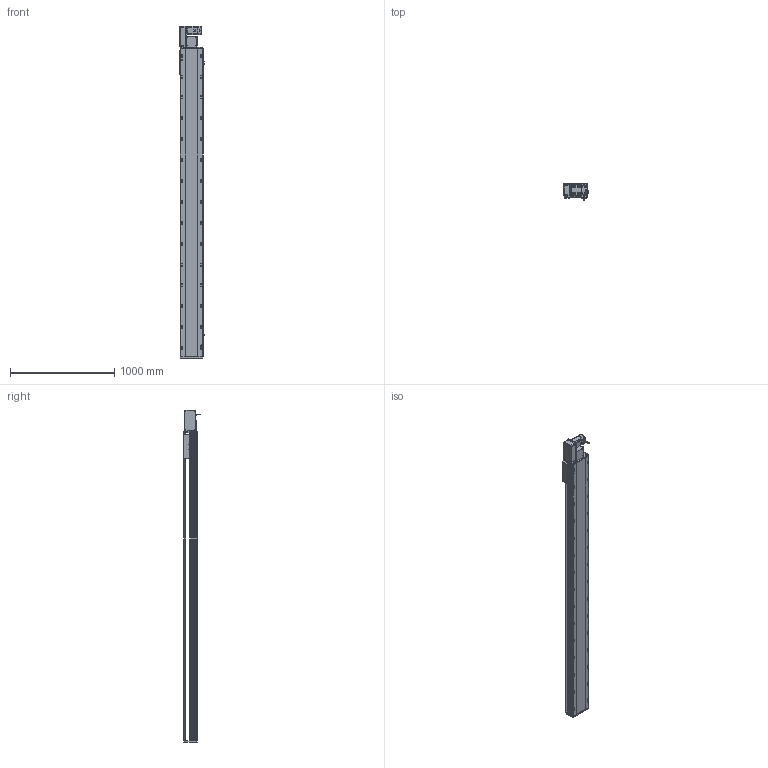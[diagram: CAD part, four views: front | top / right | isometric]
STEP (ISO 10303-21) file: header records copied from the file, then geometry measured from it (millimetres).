
FILE_DESCRIPTION (( 'STEP AP214' ), '1' );
FILE_NAME ('RTB22S-XX-2600-L-M75-C4.STEP', '2025-12-12T03:28:20', ( '' ), ( '' ), 'SwSTEP 2.0', 'SolidWorks 2018', '' );
FILE_SCHEMA (( 'AUTOMOTIVE_DESIGN' ));
Length unit declared in the file: millimetre
Products named in the file (14): RTB22S-GY-007奻裔^RTB22S-XX-XX-L-M75-C4; RTB22S-GY-008-M75--萇儂啣^RTB22S-L-々湍釱蚾饜_RTB22S-XX-XX-L-M75-C4; RTH22-GY-013外置感应片^RTB22S-XX-XX-L-M75-C4; RTB22S-L-004賑釱^RTB22S-XX-XX-L-M75-C4; RTB22S-GY-001耜裔^RTB22S-XX-XX-L-M75-C4; 750W萇儂^RTB22S-XX-XX-L-M75-C4; RTB22S-GY-017P^RTB22S-L-々湍釱蚾饜_RTB22S-XX-XX-L-M75-C4; RTB22S-XX-2600-L-M75-C4; RTB22S-GY-014--々湍釱^RTB22S-L-々湍釱蚾饜_RTB22S-XX-XX-L-M75-C4; RTB22S-L-011菁釱^RTB22S-XX-XX-L-M75-C4; OMRON EE-SX672 传感器^RTB22S-XX-XX-L-M75-C4; RTB22S-L-々湍釱蚾饜^RTB22S-XX-XX-L-M75-C4; RTB22S-GY-018P^RTB22S-L-々湍釱蚾饜_RTB22S-XX-XX-L-M75-C4; RTB22S-GY-005P^RTB22S-L-々湍釱蚾饜_RTB22S-XX-XX-L-M75-C4
Assembly tree (16 placements, depth 3):
  RTB22S-XX-2600-L-M75-C4
    RTB22S-L-011菁釱^RTB22S-XX-XX-L-M75-C4
    750W萇儂^RTB22S-XX-XX-L-M75-C4
    RTB22S-L-004賑釱^RTB22S-XX-XX-L-M75-C4
    OMRON EE-SX672 传感器^RTB22S-XX-XX-L-M75-C4  x3
    RTH22-GY-013外置感应片^RTB22S-XX-XX-L-M75-C4
    RTB22S-GY-007奻裔^RTB22S-XX-XX-L-M75-C4
    RTB22S-GY-001耜裔^RTB22S-XX-XX-L-M75-C4
    RTB22S-L-々湍釱蚾饜^RTB22S-XX-XX-L-M75-C4
      RTB22S-GY-014--々湍釱^RTB22S-L-々湍釱蚾饜_RTB22S-XX-XX-L-M75-C4
      RTB22S-GY-017P^RTB22S-L-々湍釱蚾饜_RTB22S-XX-XX-L-M75-C4  x2
      RTB22S-GY-005P^RTB22S-L-々湍釱蚾饜_RTB22S-XX-XX-L-M75-C4
      RTB22S-GY-008-M75--萇儂啣^RTB22S-L-々湍釱蚾饜_RTB22S-XX-XX-L-M75-C4
      RTB22S-GY-018P^RTB22S-L-々湍釱蚾饜_RTB22S-XX-XX-L-M75-C4
Bounding box: 238.5 x 162.7 x 3179 mm (x, y, z)
Volume: 39932827.6 mm3; surface area: 4079191.4 mm2
Topology: 15 solids, 15 shells, 2109 faces, 5736 edges, 3662 vertices
Faces by surface type: plane 929, cylinder 706, bspline 296, cone 166, sphere 8, torus 4
Entity records: 57374 total; most frequent: CARTESIAN_POINT 16208, ORIENTED_EDGE 8204, DIRECTION 8016, EDGE_CURVE 4102, AXIS2_PLACEMENT_3D 2874, VERTEX_POINT 2666, VECTOR 2268, LINE 2268
